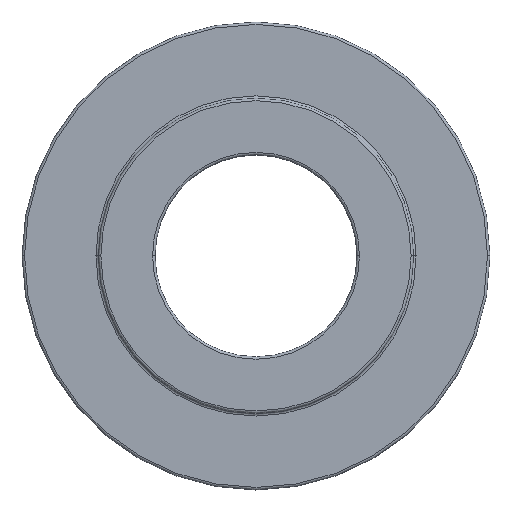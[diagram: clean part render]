
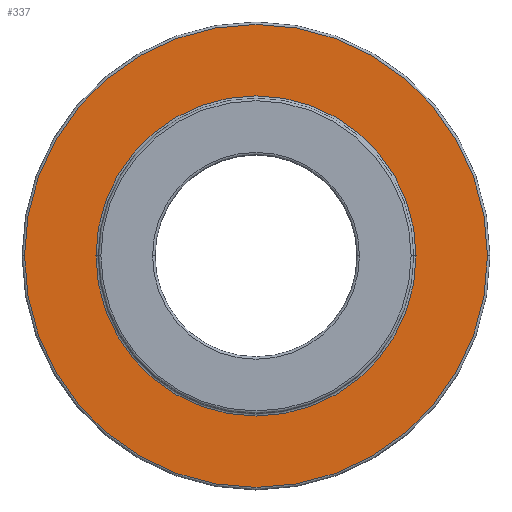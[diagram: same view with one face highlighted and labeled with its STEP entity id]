
A CAD part, top view. The second image highlights one B-rep face of the part: STEP entity #337.
In plain terms, the highlighted planar face has unit normal (0, 0, 1).
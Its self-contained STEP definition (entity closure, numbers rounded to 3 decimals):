
#26 = CARTESIAN_POINT ( 'NONE',  ( -3.25, 0., 1.2 ) ) ;
#27 = CARTESIAN_POINT ( 'NONE',  ( 3.25, 0., 1.2 ) ) ;
#44 = CIRCLE ( 'NONE', #45, 3.25 ) ;
#45 = AXIS2_PLACEMENT_3D ( 'NONE', #46, #47, #48 ) ;
#46 = CARTESIAN_POINT ( 'NONE',  ( 0., 0., 1.2 ) ) ;
#47 = DIRECTION ( 'NONE',  ( 0., 0., -1. ) ) ;
#48 = DIRECTION ( 'NONE',  ( 1., 0., 0. ) ) ;
#82 = CIRCLE ( 'NONE', #83, 4.7 ) ;
#83 = AXIS2_PLACEMENT_3D ( 'NONE', #84, #85, #88 ) ;
#84 = CARTESIAN_POINT ( 'NONE',  ( 0., 0., 1.2 ) ) ;
#85 = DIRECTION ( 'NONE',  ( 0., 0., 1. ) ) ;
#88 = DIRECTION ( 'NONE',  ( 1., 0., 0. ) ) ;
#121 = CIRCLE ( 'NONE', #122, 3.25 ) ;
#122 = AXIS2_PLACEMENT_3D ( 'NONE', #123, #124, #125 ) ;
#123 = CARTESIAN_POINT ( 'NONE',  ( 0., 0., 1.2 ) ) ;
#124 = DIRECTION ( 'NONE',  ( 0., 0., -1. ) ) ;
#125 = DIRECTION ( 'NONE',  ( 1., 0., 0. ) ) ;
#132 = CARTESIAN_POINT ( 'NONE',  ( 4.7, 0., 1.2 ) ) ;
#221 = FACE_OUTER_BOUND ( 'NONE', #260, .T. ) ;
#222 = FACE_BOUND ( 'NONE', #548, .T. ) ;
#223 = PLANE ( 'NONE',  #226 ) ;
#226 = AXIS2_PLACEMENT_3D ( 'NONE', #227, #228, #229 ) ;
#227 = CARTESIAN_POINT ( 'NONE',  ( 0., 0., 1.2 ) ) ;
#228 = DIRECTION ( 'NONE',  ( 0., 0., 1. ) ) ;
#229 = DIRECTION ( 'NONE',  ( 1., 0., 0. ) ) ;
#242 = EDGE_CURVE ( 'NONE', #574, #575, #44, .T. ) ;
#254 = CARTESIAN_POINT ( 'NONE',  ( -4.7, 0., 1.2 ) ) ;
#260 = EDGE_LOOP ( 'NONE', ( #332, #418 ) ) ;
#297 = CIRCLE ( 'NONE', #298, 4.7 ) ;
#298 = AXIS2_PLACEMENT_3D ( 'NONE', #299, #300, #301 ) ;
#299 = CARTESIAN_POINT ( 'NONE',  ( 0., 0., 1.2 ) ) ;
#300 = DIRECTION ( 'NONE',  ( 0., 0., 1. ) ) ;
#301 = DIRECTION ( 'NONE',  ( 1., 0., 0. ) ) ;
#329 = VERTEX_POINT ( 'NONE', #132 ) ;
#332 = ORIENTED_EDGE ( 'NONE', *, *, #369, .T. ) ;
#337 = ADVANCED_FACE ( 'NONE', ( #221, #222 ), #223, .T. ) ;
#347 = ORIENTED_EDGE ( 'NONE', *, *, #242, .T. ) ;
#369 = EDGE_CURVE ( 'NONE', #329, #487, #82, .T. ) ;
#418 = ORIENTED_EDGE ( 'NONE', *, *, #564, .T. ) ;
#469 = ORIENTED_EDGE ( 'NONE', *, *, #590, .T. ) ;
#487 = VERTEX_POINT ( 'NONE', #254 ) ;
#548 = EDGE_LOOP ( 'NONE', ( #469, #347 ) ) ;
#564 = EDGE_CURVE ( 'NONE', #487, #329, #297, .T. ) ;
#574 = VERTEX_POINT ( 'NONE', #26 ) ;
#575 = VERTEX_POINT ( 'NONE', #27 ) ;
#590 = EDGE_CURVE ( 'NONE', #575, #574, #121, .T. ) ;
